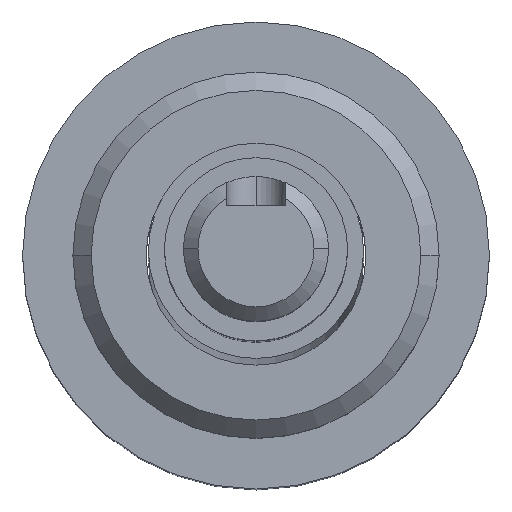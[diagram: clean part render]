
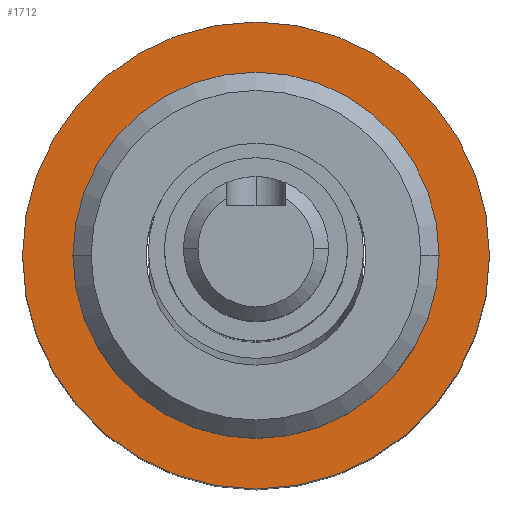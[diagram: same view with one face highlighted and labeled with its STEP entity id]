
A CAD part, top view. The second image highlights one B-rep face of the part: STEP entity #1712.
In plain terms, the highlighted planar face has unit normal (0, 0, 1) as drawn and (-1, 0, 0) by its records, which use the part's own axes.
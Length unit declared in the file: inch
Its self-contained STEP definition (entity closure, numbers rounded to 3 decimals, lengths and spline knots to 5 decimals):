
#39 = FACE_BOUND ( 'NONE', #750, .T. ) ;
#100 = DIRECTION ( 'NONE',  ( -1., 0., 0. ) ) ;
#104 = DIRECTION ( 'NONE',  ( 0., 0., 1. ) ) ;
#150 = CARTESIAN_POINT ( 'NONE',  ( 0.31496, 0., 0.50197 ) ) ;
#153 = AXIS2_PLACEMENT_3D ( 'NONE', #490, #779, #1621 ) ;
#159 = EDGE_CURVE ( 'NONE', #1559, #288, #969, .T. ) ;
#166 = CARTESIAN_POINT ( 'NONE',  ( 0.31496, 0., 0. ) ) ;
#194 = EDGE_CURVE ( 'NONE', #778, #1574, #666, .T. ) ;
#197 = EDGE_CURVE ( 'NONE', #1574, #778, #713, .T. ) ;
#208 = CARTESIAN_POINT ( 'NONE',  ( 0.31496, 0., 0. ) ) ;
#209 = FACE_OUTER_BOUND ( 'NONE', #1783, .T. ) ;
#240 = AXIS2_PLACEMENT_3D ( 'NONE', #208, #1379, #368 ) ;
#256 = AXIS2_PLACEMENT_3D ( 'NONE', #166, #455, #1255 ) ;
#271 = CARTESIAN_POINT ( 'NONE',  ( 0.31496, 0., 0.35433 ) ) ;
#288 = VERTEX_POINT ( 'NONE', #271 ) ;
#324 = CARTESIAN_POINT ( 'NONE',  ( 0.31496, 0.35433, 0. ) ) ;
#368 = DIRECTION ( 'NONE',  ( 0., 0., 1. ) ) ;
#400 = ORIENTED_EDGE ( 'NONE', *, *, #159, .F. ) ;
#401 = AXIS2_PLACEMENT_3D ( 'NONE', #529, #598, #590 ) ;
#455 = DIRECTION ( 'NONE',  ( -1., 0., 0. ) ) ;
#490 = CARTESIAN_POINT ( 'NONE',  ( 0.31496, 0., 0. ) ) ;
#496 = EDGE_CURVE ( 'NONE', #288, #1559, #1336, .T. ) ;
#529 = CARTESIAN_POINT ( 'NONE',  ( 0.31496, 0., 0. ) ) ;
#579 = CARTESIAN_POINT ( 'NONE',  ( 0.31496, 0., -0.50197 ) ) ;
#590 = DIRECTION ( 'NONE',  ( 0., 0., 1. ) ) ;
#598 = DIRECTION ( 'NONE',  ( -1., 0., 0. ) ) ;
#666 = CIRCLE ( 'NONE', #240, 0.50197 ) ;
#713 = CIRCLE ( 'NONE', #256, 0.50197 ) ;
#750 = EDGE_LOOP ( 'NONE', ( #1066, #400 ) ) ;
#778 = VERTEX_POINT ( 'NONE', #150 ) ;
#779 = DIRECTION ( 'NONE',  ( -1., 0., 0. ) ) ;
#794 = PLANE ( 'NONE',  #916 ) ;
#916 = AXIS2_PLACEMENT_3D ( 'NONE', #324, #100, #104 ) ;
#969 = CIRCLE ( 'NONE', #153, 0.35433 ) ;
#1066 = ORIENTED_EDGE ( 'NONE', *, *, #496, .F. ) ;
#1232 = ORIENTED_EDGE ( 'NONE', *, *, #194, .T. ) ;
#1255 = DIRECTION ( 'NONE',  ( 0., 0., 1. ) ) ;
#1336 = CIRCLE ( 'NONE', #401, 0.35433 ) ;
#1379 = DIRECTION ( 'NONE',  ( -1., 0., 0. ) ) ;
#1559 = VERTEX_POINT ( 'NONE', #1628 ) ;
#1574 = VERTEX_POINT ( 'NONE', #579 ) ;
#1621 = DIRECTION ( 'NONE',  ( 0., 0., 1. ) ) ;
#1628 = CARTESIAN_POINT ( 'NONE',  ( 0.31496, 0., -0.35433 ) ) ;
#1710 = ORIENTED_EDGE ( 'NONE', *, *, #197, .T. ) ;
#1712 = ADVANCED_FACE ( 'NONE', ( #209, #39 ), #794, .T. ) ;
#1783 = EDGE_LOOP ( 'NONE', ( #1232, #1710 ) ) ;
